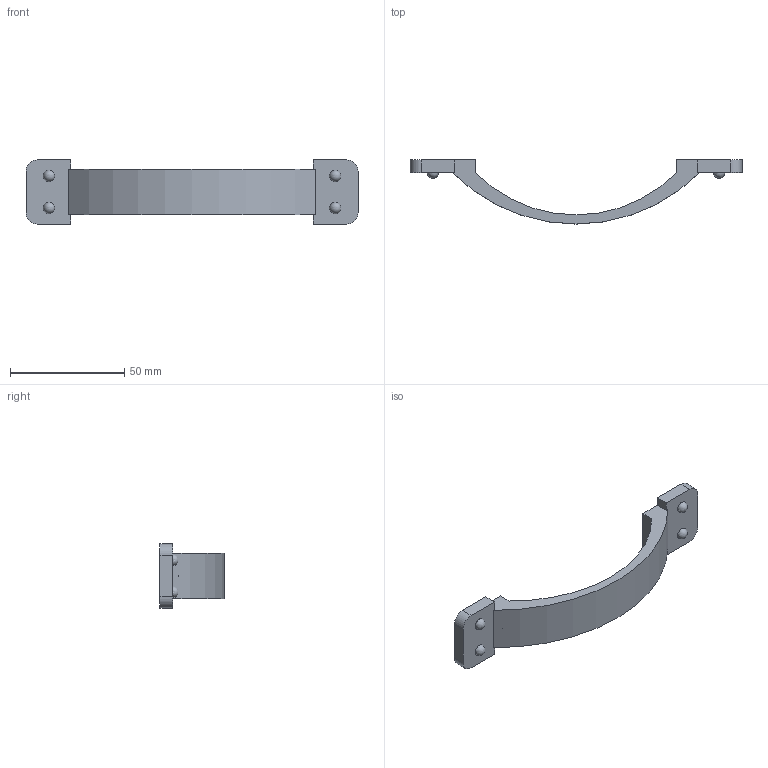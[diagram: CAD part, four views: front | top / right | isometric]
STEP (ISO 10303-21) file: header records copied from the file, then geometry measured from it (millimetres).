
FILE_DESCRIPTION( ( '' ), '1' );
FILE_NAME( 'C:/Documents and Settings/Sachin/Desktop/Sheet 10_1/stp/115293.stp', '2013-10-22T11:50:12', ( '' ), ( '' ), ' ', ' ', ' ' );
FILE_SCHEMA( ( 'CONFIG_CONTROL_DESIGN' ) );
Length unit declared in the file: millimetre
Products named in the file (1): 1
Bounding box: 145 x 28 x 28 mm (x, y, z)
Volume: 18727.5 mm3; surface area: 9453.5 mm2
Topology: 1 solids, 1 shells, 34 faces, 98 edges, 64 vertices
Faces by surface type: plane 20, cylinder 10, sphere 4
Entity records: 1126 total; most frequent: DIRECTION 192, CARTESIAN_POINT 189, ORIENTED_EDGE 180, EDGE_CURVE 90, AXIS2_PLACEMENT_3D 67, VERTEX_POINT 64, LINE 58, VECTOR 58
